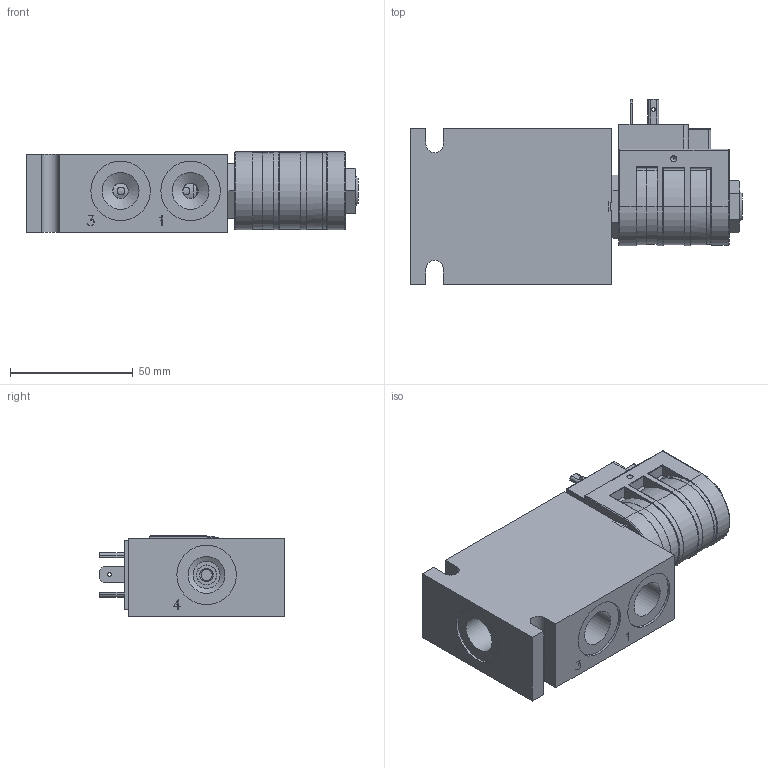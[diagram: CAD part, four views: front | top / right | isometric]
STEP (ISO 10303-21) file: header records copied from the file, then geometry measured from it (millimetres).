
FILE_DESCRIPTION( ( 'Unknown' ), '1' );
FILE_NAME( 'G:/Graphic Design/Graphic Design 2/Data Sheets/SOLENOID OPERATED VALVES/4_STEP/4W2P Spool/PQ-S4A00-B4.stp', 'Unknown', ( 'Unknown' ), ( 'Unknown' ), 'PSStep 15.0.49', 'Unknown', ' ' );
FILE_SCHEMA( ( 'AUTOMOTIVE_DESIGN { 1 0 10303 214 1 1 1 1 }' ) );
Length unit declared in the file: millimetre
Products named in the file (23): pqs4a00; PQS4A00-3D Full1; PQS4A00-3D Full2; PQS4A00-3D Full3; PQS4A00-3D Full4; PQS4A00-3D Full5; PQS4A00-3D Full6; PQS4A00-3D Full7; PQS4A00-3D Full8; PQS4A00-3D Full9; PQS4A00-3D Full10; PQS4A00-3D Full11; D-PHC12_24; PHC_Body; PHC_Disc; PHC_HirschThread; PT-EL-HC-TerminalConnectors; Assem1; Delta_1_2_nut1 - Copy; B-DPQB4
Assembly tree (23 placements, depth 3):
  Assem1
    Delta_1_2_nut1 - Copy
    B-DPQB4
    pqs4a00
      PQS4A00-3D Full1
      PQS4A00-3D Full2
      PQS4A00-3D Full3
      PQS4A00-3D Full4
      PQS4A00-3D Full5
      PQS4A00-3D Full6
      PQS4A00-3D Full7
      PQS4A00-3D Full8
      PQS4A00-3D Full9
      PQS4A00-3D Full10
      PQS4A00-3D Full11
    D-PHC12_24
      PHC_Body
      PHC_Disc  x2
      PHC_HirschThread
      PT-EL-HC-TerminalConnectors
      PT-EL-HC-TerminalConnectors
      PT-EL-HC-TerminalConnectors
      PT-EL-HC-TerminalConnectors
Bounding box: 135.14 x 75.34 x 32.62 mm (x, y, z)
Volume: 203246.6 mm3; surface area: 52309.6 mm2
Topology: 21 solids, 21 shells, 554 faces, 1253 edges, 784 vertices
Faces by surface type: plane 233, cylinder 191, cone 105, torus 19, sphere 6
Full cylindrical faces by diameter (mm): 0.2 x4, 0.5 x2, 1 x1, 1.5 x3, 3.175 x18, 4 x2, 6.3 x3, 7.948 x1, 9.779 x1, 9.881 x1, 9.931 x2, 10.998 x1, 11 x1, 11.455 x1, 11.506 x2, 11.862 x1, 12.421 x1, 12.548 x1, 12.624 x4, 12.675 x1, 12.751 x1, 13 x1, 13.05 x2, 13.056 x1, 13.106 x2, 13.437 x2, 14.046 x1, 14.199 x4, 14.326 x1, 15 x8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
Entity records: 19587 total; most frequent: CARTESIAN_POINT 4630, DIRECTION 2325, ORIENTED_EDGE 2034, EDGE_CURVE 1017, AXIS2_PLACEMENT_3D 984, EDGE_LOOP 816, VERTEX_POINT 745, FACE_OUTER_BOUND 642
